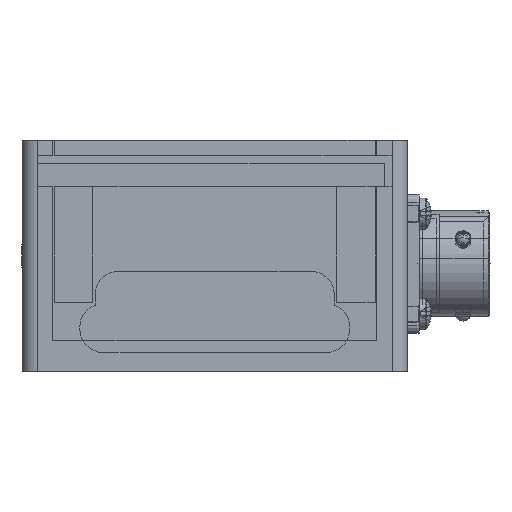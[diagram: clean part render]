
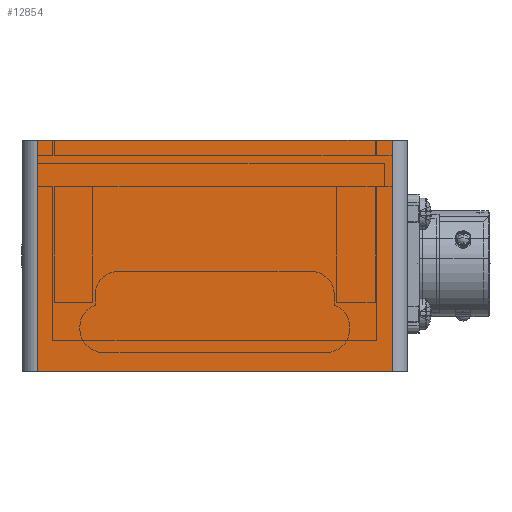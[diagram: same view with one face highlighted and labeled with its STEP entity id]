
A CAD part, left-side view. The second image highlights one B-rep face of the part: STEP entity #12854.
In plain terms, the highlighted planar face has unit normal (-1, 0, 0).
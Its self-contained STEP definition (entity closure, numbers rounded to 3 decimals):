
#270=PLANE('',#13749);
#1127=FACE_OUTER_BOUND('',#1951,.T.);
#1951=EDGE_LOOP('',(#8946,#8947,#8948,#8949));
#3037=LINE('',#19800,#3927);
#3038=LINE('',#19805,#3928);
#3039=LINE('',#19808,#3929);
#3043=LINE('',#19815,#3933);
#3927=VECTOR('',#15572,1000.);
#3928=VECTOR('',#15577,1000.);
#3929=VECTOR('',#15582,1000.);
#3933=VECTOR('',#15588,1000.);
#5635=VERTEX_POINT('',#19796);
#5636=VERTEX_POINT('',#19798);
#5637=VERTEX_POINT('',#19802);
#5638=VERTEX_POINT('',#19804);
#6910=EDGE_CURVE('',#5635,#5636,#3037,.T.);
#6912=EDGE_CURVE('',#5638,#5637,#3038,.T.);
#6914=EDGE_CURVE('',#5636,#5638,#3039,.T.);
#6918=EDGE_CURVE('',#5635,#5637,#3043,.T.);
#8946=ORIENTED_EDGE('',*,*,#6914,.T.);
#8947=ORIENTED_EDGE('',*,*,#6912,.T.);
#8948=ORIENTED_EDGE('',*,*,#6918,.F.);
#8949=ORIENTED_EDGE('',*,*,#6910,.T.);
#12854=ADVANCED_FACE('',(#1127),#270,.F.);
#13749=AXIS2_PLACEMENT_3D('',#19816,#15589,#15590);
#15572=DIRECTION('',(0.,0.,-1.));
#15577=DIRECTION('',(0.,0.,1.));
#15582=DIRECTION('',(0.,-1.,0.));
#15588=DIRECTION('',(0.,-1.,0.));
#15589=DIRECTION('center_axis',(1.,0.,0.));
#15590=DIRECTION('ref_axis',(0.,0.,1.));
#19796=CARTESIAN_POINT('',(-600.01,23.,-157.324));
#19798=CARTESIAN_POINT('',(-600.01,23.,-187.324));
#19800=CARTESIAN_POINT('',(-600.01,23.,-157.324));
#19802=CARTESIAN_POINT('',(-600.01,-23.,-157.324));
#19804=CARTESIAN_POINT('',(-600.01,-23.,-187.324));
#19805=CARTESIAN_POINT('',(-600.01,-23.,-157.324));
#19808=CARTESIAN_POINT('',(-600.01,-25.,-187.324));
#19815=CARTESIAN_POINT('',(-600.01,-25.,-157.324));
#19816=CARTESIAN_POINT('Origin',(-600.01,-25.,-157.324));
